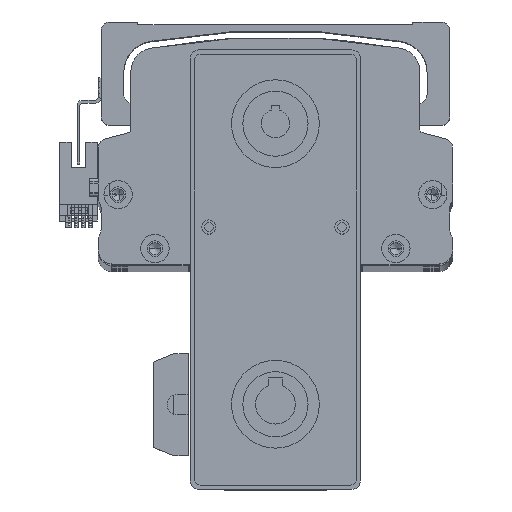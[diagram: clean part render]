
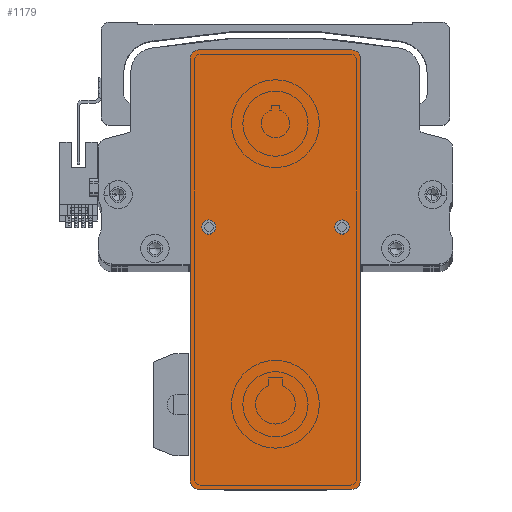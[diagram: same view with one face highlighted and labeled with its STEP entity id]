
A CAD part, top view. The second image highlights one B-rep face of the part: STEP entity #1179.
In plain terms, the highlighted planar face has unit normal (0, 0, 1) as drawn and (0, 0, -1) by its records, which use the part's own axes.
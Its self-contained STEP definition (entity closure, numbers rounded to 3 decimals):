
#1179 = ADVANCED_FACE ( 'NONE', ( #29109, #77269, #65956 ), #41353, .F. ) ;
#2418 = DIRECTION ( 'NONE',  ( 1., 0., 0. ) ) ;
#3475 = CARTESIAN_POINT ( 'NONE',  ( 17.5, 23.5, 0. ) ) ;
#3572 = DIRECTION ( 'NONE',  ( 0., 0., -1. ) ) ;
#3626 = CARTESIAN_POINT ( 'NONE',  ( 77.5, -30., 0. ) ) ;
#5267 = CARTESIAN_POINT ( 'NONE',  ( -74.5, 27., 0. ) ) ;
#5441 = DIRECTION ( 'NONE',  ( 0., 0., -1. ) ) ;
#6665 = CARTESIAN_POINT ( 'NONE',  ( 77.5, -30., 0. ) ) ;
#6795 = CARTESIAN_POINT ( 'NONE',  ( 15., 23.5, 0. ) ) ;
#7082 = ORIENTED_EDGE ( 'NONE', *, *, #69519, .F. ) ;
#8842 = VERTEX_POINT ( 'NONE', #49453 ) ;
#9484 = EDGE_LOOP ( 'NONE', ( #7082, #38288 ) ) ;
#9758 = CARTESIAN_POINT ( 'NONE',  ( -74.5, -27., 0. ) ) ;
#10141 = DIRECTION ( 'NONE',  ( 1., 0., 0. ) ) ;
#10510 = AXIS2_PLACEMENT_3D ( 'NONE', #54722, #15422, #61236 ) ;
#11058 = CARTESIAN_POINT ( 'NONE',  ( -74.5, 30., 0. ) ) ;
#11582 = AXIS2_PLACEMENT_3D ( 'NONE', #72974, #33717, #79619 ) ;
#11822 = DIRECTION ( 'NONE',  ( 1., 0., 0. ) ) ;
#12583 = EDGE_CURVE ( 'NONE', #57143, #40154, #64795, .T. ) ;
#13123 = CIRCLE ( 'NONE', #75816, 2.5 ) ;
#13304 = AXIS2_PLACEMENT_3D ( 'NONE', #21432, #67214, #28007 ) ;
#13376 = DIRECTION ( 'NONE',  ( -1., 0., 0. ) ) ;
#13721 = CIRCLE ( 'NONE', #13304, 2.5 ) ;
#15244 = AXIS2_PLACEMENT_3D ( 'NONE', #9758, #55641, #16356 ) ;
#15422 = DIRECTION ( 'NONE',  ( 0., 0., -1. ) ) ;
#16073 = VERTEX_POINT ( 'NONE', #28886 ) ;
#16260 = CARTESIAN_POINT ( 'NONE',  ( 17.5, -23.5, 0. ) ) ;
#16356 = DIRECTION ( 'NONE',  ( 1., 0., 0. ) ) ;
#17952 = DIRECTION ( 'NONE',  ( -1., 0., 0. ) ) ;
#20599 = CIRCLE ( 'NONE', #55758, 3. ) ;
#21432 = CARTESIAN_POINT ( 'NONE',  ( 15., -23.5, 0. ) ) ;
#21967 = VERTEX_POINT ( 'NONE', #76025 ) ;
#22313 = EDGE_LOOP ( 'NONE', ( #77885, #66315, #70181, #53060, #23906, #23150, #39950, #61583 ) ) ;
#22548 = VERTEX_POINT ( 'NONE', #77022 ) ;
#23150 = ORIENTED_EDGE ( 'NONE', *, *, #48505, .T. ) ;
#23906 = ORIENTED_EDGE ( 'NONE', *, *, #79617, .F. ) ;
#24838 = AXIS2_PLACEMENT_3D ( 'NONE', #80889, #41632, #2418 ) ;
#27925 = VERTEX_POINT ( 'NONE', #53523 ) ;
#28007 = DIRECTION ( 'NONE',  ( -1., 0., 0. ) ) ;
#28104 = VERTEX_POINT ( 'NONE', #16260 ) ;
#28886 = CARTESIAN_POINT ( 'NONE',  ( 12.5, 23.5, 0. ) ) ;
#29109 = FACE_BOUND ( 'NONE', #9484, .T. ) ;
#29992 = VECTOR ( 'NONE', #17952, 1000. ) ;
#30660 = VERTEX_POINT ( 'NONE', #73975 ) ;
#30838 = CARTESIAN_POINT ( 'NONE',  ( -77.5, -30., 0. ) ) ;
#33717 = DIRECTION ( 'NONE',  ( 0., 0., -1. ) ) ;
#38288 = ORIENTED_EDGE ( 'NONE', *, *, #70521, .F. ) ;
#39217 = EDGE_CURVE ( 'NONE', #68534, #27925, #78270, .T. ) ;
#39950 = ORIENTED_EDGE ( 'NONE', *, *, #12583, .F. ) ;
#40154 = VERTEX_POINT ( 'NONE', #11058 ) ;
#41276 = VECTOR ( 'NONE', #76669, 1000. ) ;
#41353 = PLANE ( 'NONE',  #24838 ) ;
#41632 = DIRECTION ( 'NONE',  ( 0., 0., 1. ) ) ;
#42677 = CARTESIAN_POINT ( 'NONE',  ( 77.5, -27., 0. ) ) ;
#42788 = CARTESIAN_POINT ( 'NONE',  ( 15., 23.5, 0. ) ) ;
#43425 = AXIS2_PLACEMENT_3D ( 'NONE', #5267, #51084, #11822 ) ;
#44558 = CIRCLE ( 'NONE', #15244, 3. ) ;
#44688 = CARTESIAN_POINT ( 'NONE',  ( 74.5, 27., 0. ) ) ;
#45713 = AXIS2_PLACEMENT_3D ( 'NONE', #6795, #52635, #13376 ) ;
#46105 = EDGE_CURVE ( 'NONE', #22548, #21967, #62928, .T. ) ;
#48505 = EDGE_CURVE ( 'NONE', #72654, #40154, #78387, .T. ) ;
#49270 = EDGE_CURVE ( 'NONE', #68534, #21967, #60742, .T. ) ;
#49380 = DIRECTION ( 'NONE',  ( -1., 0., 0. ) ) ;
#49453 = CARTESIAN_POINT ( 'NONE',  ( -77.5, -27., 0. ) ) ;
#49691 = EDGE_LOOP ( 'NONE', ( #54318, #59711 ) ) ;
#49945 = CARTESIAN_POINT ( 'NONE',  ( -77.5, 27., 0. ) ) ;
#51084 = DIRECTION ( 'NONE',  ( 0., 0., -1. ) ) ;
#51260 = DIRECTION ( 'NONE',  ( 1., 0., 0. ) ) ;
#52635 = DIRECTION ( 'NONE',  ( 0., 0., -1. ) ) ;
#53060 = ORIENTED_EDGE ( 'NONE', *, *, #78973, .T. ) ;
#53523 = CARTESIAN_POINT ( 'NONE',  ( 77.5, 27., 0. ) ) ;
#54318 = ORIENTED_EDGE ( 'NONE', *, *, #57781, .F. ) ;
#54722 = CARTESIAN_POINT ( 'NONE',  ( 74.5, -27., 0. ) ) ;
#55641 = DIRECTION ( 'NONE',  ( 0., 0., -1. ) ) ;
#55758 = AXIS2_PLACEMENT_3D ( 'NONE', #44688, #5441, #51260 ) ;
#57143 = VERTEX_POINT ( 'NONE', #58733 ) ;
#57241 = CARTESIAN_POINT ( 'NONE',  ( 77.5, 30., 0. ) ) ;
#57781 = EDGE_CURVE ( 'NONE', #30660, #28104, #13721, .T. ) ;
#58733 = CARTESIAN_POINT ( 'NONE',  ( 74.5, 30., 0. ) ) ;
#58791 = VECTOR ( 'NONE', #10141, 1000. ) ;
#59457 = EDGE_CURVE ( 'NONE', #57143, #27925, #20599, .T. ) ;
#59711 = ORIENTED_EDGE ( 'NONE', *, *, #74934, .F. ) ;
#60742 = CIRCLE ( 'NONE', #10510, 3. ) ;
#60792 = VECTOR ( 'NONE', #65623, 1000. ) ;
#61236 = DIRECTION ( 'NONE',  ( 1., 0., 0. ) ) ;
#61583 = ORIENTED_EDGE ( 'NONE', *, *, #59457, .T. ) ;
#62928 = LINE ( 'NONE', #3626, #58791 ) ;
#64795 = LINE ( 'NONE', #57241, #29992 ) ;
#65623 = DIRECTION ( 'NONE',  ( 0., 1., 0. ) ) ;
#65956 = FACE_OUTER_BOUND ( 'NONE', #22313, .T. ) ;
#66315 = ORIENTED_EDGE ( 'NONE', *, *, #49270, .T. ) ;
#67214 = DIRECTION ( 'NONE',  ( 0., 0., -1. ) ) ;
#68063 = CIRCLE ( 'NONE', #11582, 2.5 ) ;
#68534 = VERTEX_POINT ( 'NONE', #42677 ) ;
#69519 = EDGE_CURVE ( 'NONE', #16073, #70242, #13123, .T. ) ;
#70181 = ORIENTED_EDGE ( 'NONE', *, *, #46105, .F. ) ;
#70242 = VERTEX_POINT ( 'NONE', #3475 ) ;
#70521 = EDGE_CURVE ( 'NONE', #70242, #16073, #83785, .T. ) ;
#72654 = VERTEX_POINT ( 'NONE', #49945 ) ;
#72974 = CARTESIAN_POINT ( 'NONE',  ( 15., -23.5, 0. ) ) ;
#73975 = CARTESIAN_POINT ( 'NONE',  ( 12.5, -23.5, 0. ) ) ;
#74934 = EDGE_CURVE ( 'NONE', #28104, #30660, #68063, .T. ) ;
#75816 = AXIS2_PLACEMENT_3D ( 'NONE', #42788, #3572, #49380 ) ;
#76025 = CARTESIAN_POINT ( 'NONE',  ( 74.5, -30., 0. ) ) ;
#76116 = LINE ( 'NONE', #30838, #41276 ) ;
#76669 = DIRECTION ( 'NONE',  ( 0., -1., 0. ) ) ;
#77022 = CARTESIAN_POINT ( 'NONE',  ( -74.5, -30., 0. ) ) ;
#77269 = FACE_BOUND ( 'NONE', #49691, .T. ) ;
#77885 = ORIENTED_EDGE ( 'NONE', *, *, #39217, .F. ) ;
#78270 = LINE ( 'NONE', #6665, #60792 ) ;
#78387 = CIRCLE ( 'NONE', #43425, 3. ) ;
#78973 = EDGE_CURVE ( 'NONE', #22548, #8842, #44558, .T. ) ;
#79617 = EDGE_CURVE ( 'NONE', #72654, #8842, #76116, .T. ) ;
#79619 = DIRECTION ( 'NONE',  ( -1., 0., 0. ) ) ;
#80889 = CARTESIAN_POINT ( 'NONE',  ( 0., 0., 0. ) ) ;
#83785 = CIRCLE ( 'NONE', #45713, 2.5 ) ;
